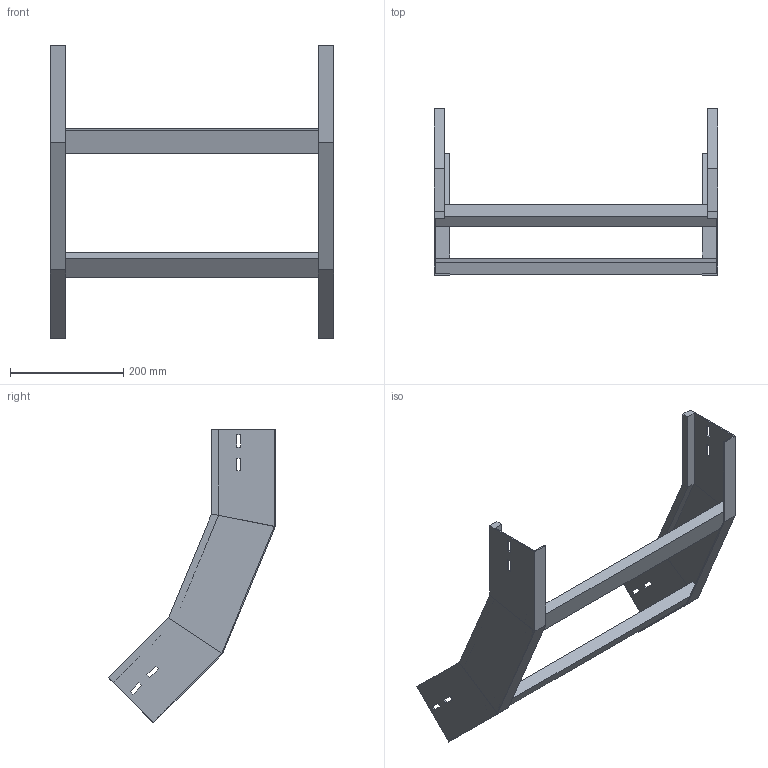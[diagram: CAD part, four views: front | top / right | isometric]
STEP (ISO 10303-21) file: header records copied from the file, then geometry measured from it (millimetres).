
FILE_DESCRIPTION (( 'STEP AP214' ), '1' );
FILE_NAME ('B2X31B5J500XX.step', '2025-03-20T10:08:28', ( '' ), ( '' ), 'SwSTEP 2.0', 'SolidWorks 2023', '' );
FILE_SCHEMA (( 'AUTOMOTIVE_DESIGN' ));
Length unit declared in the file: millimetre
Products named in the file (3): LONGH.SALITA_45°_H112.5_R500; TRAVERSINO_500; B2X31B5J500XX
Assembly tree (4 placements, depth 2):
  B2X31B5J500XX
    LONGH.SALITA_45°_H112.5_R500  x2
    TRAVERSINO_500  x2
Bounding box: 500 x 294.27 x 518.39 mm (x, y, z)
Volume: 1296835.9 mm3; surface area: 462904 mm2
Topology: 4 solids, 4 shells, 96 faces, 232 edges, 144 vertices
Faces by surface type: plane 96
Entity records: 1472 total; most frequent: CARTESIAN_POINT 243, ORIENTED_EDGE 232, DIRECTION 226, VECTOR 116, LINE 116, EDGE_CURVE 116, VERTEX_POINT 72, EDGE_LOOP 56
